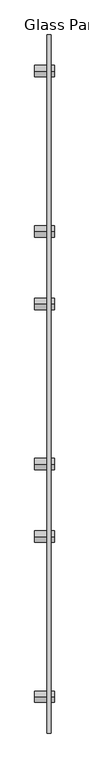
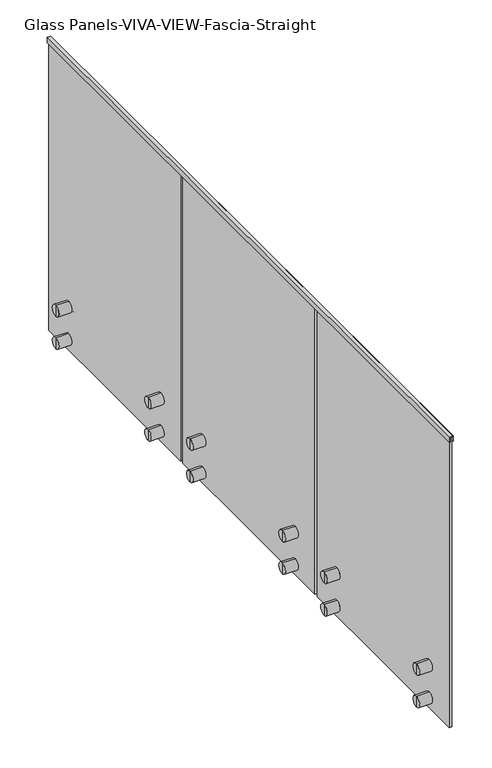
"""IFC4 building model written with IfcOpenShell, lengths in millimetres: railing geometry, Glass Panels-VIVA-VIEW-Fascia-Straight."""

from ifc_helpers import new_model, si_unit, frame, origin, place, context, project, spatial, polyline, circle_curve, outline, extrude, source, transform, mapped, element, save
from ifc_brep_helpers import plane_surface, cylinder_surface, advanced_brep


def glass_panels_viva_view_fascia_straight_b781b54e(model_context):
    return source(origin(), model_context, "Body", "SolidModel", [
        extrude(outline(polyline([(1092.2, 20234.1346444), (1066.8, 20234.1346444), (1066.8, 20235.7221444), (1090.6125, 20235.7221444), (1090.6125, 20248.4221444), (1066.8, 20248.4221444), (1066.8, 20250.0096444), (1092.2, 20250.0096444), (1092.2, 20234.1346444)])), frame((0.0, -6665.9911701, 0.0), z_axis=(0.0, 1.0, 0.0), x_axis=(0.0, 0.0, 1.0)), (0.0, 0.0, 1.0), 3098.8),
        advanced_brep(
        [(20265.8843505, -4438.8747902, -254.0), (20265.8843505, -4438.8747902, -203.2), (20265.8843505, -4438.8747902, -228.6), (20248.4218505, -4438.8747902, -254.0), (20248.4218505, -4438.8747902, -203.2), (20248.4218505, -4438.8747902, -234.315), (20248.4218505, -4438.8747902, -222.885), (20235.7218505, -4438.8747902, -234.315), (20235.7218505, -4438.8747902, -222.885), (20235.7218505, -4438.8747902, -254.0), (20235.7218505, -4438.8747902, -203.2), (20178.5719975, -4438.8747902, -254.0), (20178.5719975, -4438.8747902, -203.2), (20178.5719975, -4438.8747902, -228.6)],
        [
            (0, 1, circle_curve(frame((20265.8843505, -4438.8747902, -228.6), z_axis=(1.0, 0.0, 0.0), x_axis=(0.0, 0.0, 1.0)), 25.4)),
            (1, 2),
            (2, 0),
            (1, 0, circle_curve(frame((20265.8843505, -4438.8747902, -228.6), z_axis=(1.0, 0.0, 0.0), x_axis=(0.0, 0.0, 1.0)), 25.4)),
            (3, 4, circle_curve(frame((20248.4218505, -4438.8747902, -228.6), z_axis=(1.0, 0.0, 0.0), x_axis=(0.0, 0.0, 1.0)), 25.4)),
            (4, 1),
            (0, 3),
            (4, 3, circle_curve(frame((20248.4218505, -4438.8747902, -228.6), z_axis=(1.0, 0.0, 0.0), x_axis=(0.0, 0.0, 1.0)), 25.4)),
            (5, 6, circle_curve(frame((20248.4218505, -4438.8747902, -228.6), z_axis=(1.0, 0.0, 0.0), x_axis=(0.0, 0.0, 1.0)), 5.715)),
            (6, 4),
            (3, 5),
            (6, 5, circle_curve(frame((20248.4218505, -4438.8747902, -228.6), z_axis=(1.0, 0.0, 0.0), x_axis=(0.0, 0.0, 1.0)), 5.715)),
            (7, 8, circle_curve(frame((20235.7218505, -4438.8747902, -228.6), z_axis=(1.0, 0.0, 0.0), x_axis=(0.0, 0.0, 1.0)), 5.715)),
            (8, 6),
            (5, 7),
            (8, 7, circle_curve(frame((20235.7218505, -4438.8747902, -228.6), z_axis=(1.0, 0.0, 0.0), x_axis=(0.0, 0.0, 1.0)), 5.715)),
            (9, 10, circle_curve(frame((20235.7218505, -4438.8747902, -228.6), z_axis=(1.0, 0.0, 0.0), x_axis=(0.0, 0.0, 1.0)), 25.4)),
            (10, 8),
            (7, 9),
            (10, 9, circle_curve(frame((20235.7218505, -4438.8747902, -228.6), z_axis=(1.0, 0.0, 0.0), x_axis=(0.0, 0.0, 1.0)), 25.4)),
            (11, 12, circle_curve(frame((20178.5719975, -4438.8747902, -228.6), z_axis=(1.0, 0.0, 0.0), x_axis=(0.0, 0.0, 1.0)), 25.4)),
            (12, 10),
            (9, 11),
            (12, 11, circle_curve(frame((20178.5719975, -4438.8747902, -228.6), z_axis=(1.0, 0.0, 0.0), x_axis=(0.0, 0.0, 1.0)), 25.4)),
            (13, 12),
            (11, 13),
        ],
        [
            plane_surface(frame((20265.8843505, -4438.8747902, -228.6), z_axis=(1.0, 0.0, 0.0), x_axis=(0.0, 0.0, 1.0))),
            cylinder_surface(frame((20334.1469975, -4438.8747902, -228.6), z_axis=(-1.0, 0.0, 0.0), x_axis=(0.0, 0.0, 1.0)), 25.4),
            plane_surface(frame((20248.4218505, -4438.8747902, -228.6), z_axis=(-1.0, 0.0, 0.0), x_axis=(0.0, 0.0, 1.0))),
            cylinder_surface(frame((20334.1469975, -4438.8747902, -228.6), z_axis=(-1.0, 0.0, 0.0), x_axis=(0.0, 0.0, 1.0)), 5.715),
            plane_surface(frame((20235.7218505, -4438.8747902, -228.6), z_axis=(1.0, 0.0, 0.0), x_axis=(0.0, 0.0, 1.0))),
            plane_surface(frame((20178.5719975, -4438.8747902, -228.6), z_axis=(-1.0, 0.0, 0.0), x_axis=(0.0, 0.0, 1.0))),
        ],
        [
            (0, [[1, 2, 3]]),
            (0, [[4, -3, -2]]),
            (1, [[5, 6, -1, 7]]),
            (1, [[8, -7, -4, -6]]),
            (2, [[9, 10, -5, 11]]),
            (2, [[12, -11, -8, -10]]),
            (3, [[13, 14, -9, 15]]),
            (3, [[16, -15, -12, -14]]),
            (4, [[17, 18, -13, 19]]),
            (4, [[20, -19, -16, -18]]),
            (1, [[21, 22, -17, 23]]),
            (1, [[24, -23, -20, -22]]),
            (5, [[25, -21, 26]]),
            (5, [[-26, -24, -25]]),
        ],
    ),
        advanced_brep(
        [(20248.4218505, -4438.8747902, -81.915), (20248.4218505, -4438.8747902, -70.485), (20248.4218505, -4438.8747902, -50.8), (20248.4218505, -4438.8747902, -101.6), (20235.7218505, -4438.8747902, -81.915), (20235.7218505, -4438.8747902, -70.485), (20235.7218505, -4438.8747902, -101.6), (20235.7218505, -4438.8747902, -50.8), (20178.5719975, -4438.8747902, -101.6), (20178.5719975, -4438.8747902, -50.8), (20178.5719975, -4438.8747902, -76.2), (20265.8843505, -4438.8747902, -101.6), (20265.8843505, -4438.8747902, -50.8), (20265.8843505, -4438.8747902, -76.2)],
        [
            (0, 1, circle_curve(frame((20248.4218505, -4438.8747902, -76.2), z_axis=(1.0, 0.0, 0.0), x_axis=(0.0, 0.0, 1.0)), 5.715)),
            (1, 2),
            (2, 3, circle_curve(frame((20248.4218505, -4438.8747902, -76.2), z_axis=(-1.0, 0.0, 0.0), x_axis=(0.0, 0.0, 1.0)), 25.4)),
            (3, 0),
            (1, 0, circle_curve(frame((20248.4218505, -4438.8747902, -76.2), z_axis=(1.0, 0.0, 0.0), x_axis=(0.0, 0.0, 1.0)), 5.715)),
            (3, 2, circle_curve(frame((20248.4218505, -4438.8747902, -76.2), z_axis=(-1.0, 0.0, 0.0), x_axis=(0.0, 0.0, 1.0)), 25.4)),
            (4, 5, circle_curve(frame((20235.7218505, -4438.8747902, -76.2), z_axis=(1.0, 0.0, 0.0), x_axis=(0.0, 0.0, 1.0)), 5.715)),
            (5, 1),
            (0, 4),
            (5, 4, circle_curve(frame((20235.7218505, -4438.8747902, -76.2), z_axis=(1.0, 0.0, 0.0), x_axis=(0.0, 0.0, 1.0)), 5.715)),
            (6, 7, circle_curve(frame((20235.7218505, -4438.8747902, -76.2), z_axis=(1.0, 0.0, 0.0), x_axis=(0.0, 0.0, 1.0)), 25.4)),
            (7, 5),
            (4, 6),
            (7, 6, circle_curve(frame((20235.7218505, -4438.8747902, -76.2), z_axis=(1.0, 0.0, 0.0), x_axis=(0.0, 0.0, 1.0)), 25.4)),
            (8, 9, circle_curve(frame((20178.5719975, -4438.8747902, -76.2), z_axis=(1.0, 0.0, 0.0), x_axis=(0.0, 0.0, 1.0)), 25.4)),
            (9, 7),
            (6, 8),
            (9, 8, circle_curve(frame((20178.5719975, -4438.8747902, -76.2), z_axis=(1.0, 0.0, 0.0), x_axis=(0.0, 0.0, 1.0)), 25.4)),
            (10, 9),
            (8, 10),
            (11, 12, circle_curve(frame((20265.8843505, -4438.8747902, -76.2), z_axis=(1.0, 0.0, 0.0), x_axis=(0.0, 0.0, 1.0)), 25.4)),
            (12, 13),
            (13, 11),
            (12, 11, circle_curve(frame((20265.8843505, -4438.8747902, -76.2), z_axis=(1.0, 0.0, 0.0), x_axis=(0.0, 0.0, 1.0)), 25.4)),
            (2, 12),
            (11, 3),
        ],
        [
            plane_surface(frame((20248.4218505, -4438.8747902, -76.2), z_axis=(-1.0, 0.0, 0.0), x_axis=(0.0, 0.0, 1.0))),
            cylinder_surface(frame((20334.1469975, -4438.8747902, -76.2), z_axis=(-1.0, 0.0, 0.0), x_axis=(0.0, 0.0, 1.0)), 5.715),
            plane_surface(frame((20235.7218505, -4438.8747902, -76.2), z_axis=(1.0, 0.0, 0.0), x_axis=(0.0, 0.0, 1.0))),
            cylinder_surface(frame((20334.1469975, -4438.8747902, -76.2), z_axis=(-1.0, 0.0, 0.0), x_axis=(0.0, 0.0, 1.0)), 25.4),
            plane_surface(frame((20178.5719975, -4438.8747902, -76.2), z_axis=(-1.0, 0.0, 0.0), x_axis=(0.0, 0.0, 1.0))),
            plane_surface(frame((20265.8843505, -4438.8747902, -76.2), z_axis=(1.0, 0.0, 0.0), x_axis=(0.0, 0.0, 1.0))),
        ],
        [
            (0, [[1, 2, 3, 4]]),
            (0, [[5, -4, 6, -2]]),
            (1, [[7, 8, -1, 9]]),
            (1, [[10, -9, -5, -8]]),
            (2, [[11, 12, -7, 13]]),
            (2, [[14, -13, -10, -12]]),
            (3, [[15, 16, -11, 17]]),
            (3, [[18, -17, -14, -16]]),
            (4, [[19, -15, 20]]),
            (4, [[-20, -18, -19]]),
            (5, [[21, 22, 23]]),
            (5, [[24, -23, -22]]),
            (3, [[-3, 25, -21, 26]]),
            (3, [[-6, -26, -24, -25]]),
        ],
    ),
        advanced_brep(
        [(20265.8843505, -3727.6747902, -254.0), (20265.8843505, -3727.6747902, -203.2), (20265.8843505, -3727.6747902, -228.6), (20248.4218505, -3727.6747902, -254.0), (20248.4218505, -3727.6747902, -203.2), (20248.4218505, -3727.6747902, -234.315), (20248.4218505, -3727.6747902, -222.885), (20235.7218505, -3727.6747902, -234.315), (20235.7218505, -3727.6747902, -222.885), (20235.7218505, -3727.6747902, -254.0), (20235.7218505, -3727.6747902, -203.2), (20178.5719975, -3727.6747902, -254.0), (20178.5719975, -3727.6747902, -203.2), (20178.5719975, -3727.6747902, -228.6)],
        [
            (0, 1, circle_curve(frame((20265.8843505, -3727.6747902, -228.6), z_axis=(1.0, 0.0, 0.0), x_axis=(0.0, 0.0, 1.0)), 25.4)),
            (1, 2),
            (2, 0),
            (1, 0, circle_curve(frame((20265.8843505, -3727.6747902, -228.6), z_axis=(1.0, 0.0, 0.0), x_axis=(0.0, 0.0, 1.0)), 25.4)),
            (3, 4, circle_curve(frame((20248.4218505, -3727.6747902, -228.6), z_axis=(1.0, 0.0, 0.0), x_axis=(0.0, 0.0, 1.0)), 25.4)),
            (4, 1),
            (0, 3),
            (4, 3, circle_curve(frame((20248.4218505, -3727.6747902, -228.6), z_axis=(1.0, 0.0, 0.0), x_axis=(0.0, 0.0, 1.0)), 25.4)),
            (5, 6, circle_curve(frame((20248.4218505, -3727.6747902, -228.6), z_axis=(1.0, 0.0, 0.0), x_axis=(0.0, 0.0, 1.0)), 5.715)),
            (6, 4),
            (3, 5),
            (6, 5, circle_curve(frame((20248.4218505, -3727.6747902, -228.6), z_axis=(1.0, 0.0, 0.0), x_axis=(0.0, 0.0, 1.0)), 5.715)),
            (7, 8, circle_curve(frame((20235.7218505, -3727.6747902, -228.6), z_axis=(1.0, 0.0, 0.0), x_axis=(0.0, 0.0, 1.0)), 5.715)),
            (8, 6),
            (5, 7),
            (8, 7, circle_curve(frame((20235.7218505, -3727.6747902, -228.6), z_axis=(1.0, 0.0, 0.0), x_axis=(0.0, 0.0, 1.0)), 5.715)),
            (9, 10, circle_curve(frame((20235.7218505, -3727.6747902, -228.6), z_axis=(1.0, 0.0, 0.0), x_axis=(0.0, 0.0, 1.0)), 25.4)),
            (10, 8),
            (7, 9),
            (10, 9, circle_curve(frame((20235.7218505, -3727.6747902, -228.6), z_axis=(1.0, 0.0, 0.0), x_axis=(0.0, 0.0, 1.0)), 25.4)),
            (11, 12, circle_curve(frame((20178.5719975, -3727.6747902, -228.6), z_axis=(1.0, 0.0, 0.0), x_axis=(0.0, 0.0, 1.0)), 25.4)),
            (12, 10),
            (9, 11),
            (12, 11, circle_curve(frame((20178.5719975, -3727.6747902, -228.6), z_axis=(1.0, 0.0, 0.0), x_axis=(0.0, 0.0, 1.0)), 25.4)),
            (13, 12),
            (11, 13),
        ],
        [
            plane_surface(frame((20265.8843505, -3727.6747902, -228.6), z_axis=(1.0, 0.0, 0.0), x_axis=(0.0, 0.0, 1.0))),
            cylinder_surface(frame((20334.1469975, -3727.6747902, -228.6), z_axis=(-1.0, 0.0, 0.0), x_axis=(0.0, 0.0, 1.0)), 25.4),
            plane_surface(frame((20248.4218505, -3727.6747902, -228.6), z_axis=(-1.0, 0.0, 0.0), x_axis=(0.0, 0.0, 1.0))),
            cylinder_surface(frame((20334.1469975, -3727.6747902, -228.6), z_axis=(-1.0, 0.0, 0.0), x_axis=(0.0, 0.0, 1.0)), 5.715),
            plane_surface(frame((20235.7218505, -3727.6747902, -228.6), z_axis=(1.0, 0.0, 0.0), x_axis=(0.0, 0.0, 1.0))),
            plane_surface(frame((20178.5719975, -3727.6747902, -228.6), z_axis=(-1.0, 0.0, 0.0), x_axis=(0.0, 0.0, 1.0))),
        ],
        [
            (0, [[1, 2, 3]]),
            (0, [[4, -3, -2]]),
            (1, [[5, 6, -1, 7]]),
            (1, [[8, -7, -4, -6]]),
            (2, [[9, 10, -5, 11]]),
            (2, [[12, -11, -8, -10]]),
            (3, [[13, 14, -9, 15]]),
            (3, [[16, -15, -12, -14]]),
            (4, [[17, 18, -13, 19]]),
            (4, [[20, -19, -16, -18]]),
            (1, [[21, 22, -17, 23]]),
            (1, [[24, -23, -20, -22]]),
            (5, [[25, -21, 26]]),
            (5, [[-26, -24, -25]]),
        ],
    ),
        advanced_brep(
        [(20248.4218505, -3727.6747902, -81.915), (20248.4218505, -3727.6747902, -70.485), (20248.4218505, -3727.6747902, -50.8), (20248.4218505, -3727.6747902, -101.6), (20235.7218505, -3727.6747902, -81.915), (20235.7218505, -3727.6747902, -70.485), (20235.7218505, -3727.6747902, -101.6), (20235.7218505, -3727.6747902, -50.8), (20178.5719975, -3727.6747902, -101.6), (20178.5719975, -3727.6747902, -50.8), (20178.5719975, -3727.6747902, -76.2), (20265.8843505, -3727.6747902, -101.6), (20265.8843505, -3727.6747902, -50.8), (20265.8843505, -3727.6747902, -76.2)],
        [
            (0, 1, circle_curve(frame((20248.4218505, -3727.6747902, -76.2), z_axis=(1.0, 0.0, 0.0), x_axis=(0.0, 0.0, 1.0)), 5.715)),
            (1, 2),
            (2, 3, circle_curve(frame((20248.4218505, -3727.6747902, -76.2), z_axis=(-1.0, 0.0, 0.0), x_axis=(0.0, 0.0, 1.0)), 25.4)),
            (3, 0),
            (1, 0, circle_curve(frame((20248.4218505, -3727.6747902, -76.2), z_axis=(1.0, 0.0, 0.0), x_axis=(0.0, 0.0, 1.0)), 5.715)),
            (3, 2, circle_curve(frame((20248.4218505, -3727.6747902, -76.2), z_axis=(-1.0, 0.0, 0.0), x_axis=(0.0, 0.0, 1.0)), 25.4)),
            (4, 5, circle_curve(frame((20235.7218505, -3727.6747902, -76.2), z_axis=(1.0, 0.0, 0.0), x_axis=(0.0, 0.0, 1.0)), 5.715)),
            (5, 1),
            (0, 4),
            (5, 4, circle_curve(frame((20235.7218505, -3727.6747902, -76.2), z_axis=(1.0, 0.0, 0.0), x_axis=(0.0, 0.0, 1.0)), 5.715)),
            (6, 7, circle_curve(frame((20235.7218505, -3727.6747902, -76.2), z_axis=(1.0, 0.0, 0.0), x_axis=(0.0, 0.0, 1.0)), 25.4)),
            (7, 5),
            (4, 6),
            (7, 6, circle_curve(frame((20235.7218505, -3727.6747902, -76.2), z_axis=(1.0, 0.0, 0.0), x_axis=(0.0, 0.0, 1.0)), 25.4)),
            (8, 9, circle_curve(frame((20178.5719975, -3727.6747902, -76.2), z_axis=(1.0, 0.0, 0.0), x_axis=(0.0, 0.0, 1.0)), 25.4)),
            (9, 7),
            (6, 8),
            (9, 8, circle_curve(frame((20178.5719975, -3727.6747902, -76.2), z_axis=(1.0, 0.0, 0.0), x_axis=(0.0, 0.0, 1.0)), 25.4)),
            (10, 9),
            (8, 10),
            (11, 12, circle_curve(frame((20265.8843505, -3727.6747902, -76.2), z_axis=(1.0, 0.0, 0.0), x_axis=(0.0, 0.0, 1.0)), 25.4)),
            (12, 13),
            (13, 11),
            (12, 11, circle_curve(frame((20265.8843505, -3727.6747902, -76.2), z_axis=(1.0, 0.0, 0.0), x_axis=(0.0, 0.0, 1.0)), 25.4)),
            (2, 12),
            (11, 3),
        ],
        [
            plane_surface(frame((20248.4218505, -3727.6747902, -76.2), z_axis=(-1.0, 0.0, 0.0), x_axis=(0.0, 0.0, 1.0))),
            cylinder_surface(frame((20334.1469975, -3727.6747902, -76.2), z_axis=(-1.0, 0.0, 0.0), x_axis=(0.0, 0.0, 1.0)), 5.715),
            plane_surface(frame((20235.7218505, -3727.6747902, -76.2), z_axis=(1.0, 0.0, 0.0), x_axis=(0.0, 0.0, 1.0))),
            cylinder_surface(frame((20334.1469975, -3727.6747902, -76.2), z_axis=(-1.0, 0.0, 0.0), x_axis=(0.0, 0.0, 1.0)), 25.4),
            plane_surface(frame((20178.5719975, -3727.6747902, -76.2), z_axis=(-1.0, 0.0, 0.0), x_axis=(0.0, 0.0, 1.0))),
            plane_surface(frame((20265.8843505, -3727.6747902, -76.2), z_axis=(1.0, 0.0, 0.0), x_axis=(0.0, 0.0, 1.0))),
        ],
        [
            (0, [[1, 2, 3, 4]]),
            (0, [[5, -4, 6, -2]]),
            (1, [[7, 8, -1, 9]]),
            (1, [[10, -9, -5, -8]]),
            (2, [[11, 12, -7, 13]]),
            (2, [[14, -13, -10, -12]]),
            (3, [[15, 16, -11, 17]]),
            (3, [[18, -17, -14, -16]]),
            (4, [[19, -15, 20]]),
            (4, [[-20, -18, -19]]),
            (5, [[21, 22, 23]]),
            (5, [[24, -23, -22]]),
            (3, [[-3, 25, -21, 26]]),
            (3, [[-6, -26, -24, -25]]),
        ],
    ),
        extrude(outline(polyline([(20235.7221444, -4591.2747902), (20235.7221444, -3575.2747902), (20248.4221444, -3575.2747902), (20248.4221444, -4591.2747902), (20235.7221444, -4591.2747902)])), frame((0.0, 0.0, -279.4), z_axis=(0.0, 0.0, 1.0), x_axis=(1.0, 0.0, 0.0)), (0.0, 0.0, 1.0), 1370.0125),
        advanced_brep(
        [(20265.8843505, -5471.8081235, -254.0), (20265.8843505, -5471.8081235, -203.2), (20265.8843505, -5471.8081235, -228.6), (20248.4218505, -5471.8081235, -254.0), (20248.4218505, -5471.8081235, -203.2), (20248.4218505, -5471.8081235, -234.315), (20248.4218505, -5471.8081235, -222.885), (20235.7218505, -5471.8081235, -234.315), (20235.7218505, -5471.8081235, -222.885), (20235.7218505, -5471.8081235, -254.0), (20235.7218505, -5471.8081235, -203.2), (20178.5719975, -5471.8081235, -254.0), (20178.5719975, -5471.8081235, -203.2), (20178.5719975, -5471.8081235, -228.6)],
        [
            (0, 1, circle_curve(frame((20265.8843505, -5471.8081235, -228.6), z_axis=(1.0, 0.0, 0.0), x_axis=(0.0, 0.0, 1.0)), 25.4)),
            (1, 2),
            (2, 0),
            (1, 0, circle_curve(frame((20265.8843505, -5471.8081235, -228.6), z_axis=(1.0, 0.0, 0.0), x_axis=(0.0, 0.0, 1.0)), 25.4)),
            (3, 4, circle_curve(frame((20248.4218505, -5471.8081235, -228.6), z_axis=(1.0, 0.0, 0.0), x_axis=(0.0, 0.0, 1.0)), 25.4)),
            (4, 1),
            (0, 3),
            (4, 3, circle_curve(frame((20248.4218505, -5471.8081235, -228.6), z_axis=(1.0, 0.0, 0.0), x_axis=(0.0, 0.0, 1.0)), 25.4)),
            (5, 6, circle_curve(frame((20248.4218505, -5471.8081235, -228.6), z_axis=(1.0, 0.0, 0.0), x_axis=(0.0, 0.0, 1.0)), 5.715)),
            (6, 4),
            (3, 5),
            (6, 5, circle_curve(frame((20248.4218505, -5471.8081235, -228.6), z_axis=(1.0, 0.0, 0.0), x_axis=(0.0, 0.0, 1.0)), 5.715)),
            (7, 8, circle_curve(frame((20235.7218505, -5471.8081235, -228.6), z_axis=(1.0, 0.0, 0.0), x_axis=(0.0, 0.0, 1.0)), 5.715)),
            (8, 6),
            (5, 7),
            (8, 7, circle_curve(frame((20235.7218505, -5471.8081235, -228.6), z_axis=(1.0, 0.0, 0.0), x_axis=(0.0, 0.0, 1.0)), 5.715)),
            (9, 10, circle_curve(frame((20235.7218505, -5471.8081235, -228.6), z_axis=(1.0, 0.0, 0.0), x_axis=(0.0, 0.0, 1.0)), 25.4)),
            (10, 8),
            (7, 9),
            (10, 9, circle_curve(frame((20235.7218505, -5471.8081235, -228.6), z_axis=(1.0, 0.0, 0.0), x_axis=(0.0, 0.0, 1.0)), 25.4)),
            (11, 12, circle_curve(frame((20178.5719975, -5471.8081235, -228.6), z_axis=(1.0, 0.0, 0.0), x_axis=(0.0, 0.0, 1.0)), 25.4)),
            (12, 10),
            (9, 11),
            (12, 11, circle_curve(frame((20178.5719975, -5471.8081235, -228.6), z_axis=(1.0, 0.0, 0.0), x_axis=(0.0, 0.0, 1.0)), 25.4)),
            (13, 12),
            (11, 13),
        ],
        [
            plane_surface(frame((20265.8843505, -5471.8081235, -228.6), z_axis=(1.0, 0.0, 0.0), x_axis=(0.0, 0.0, 1.0))),
            cylinder_surface(frame((20334.1469975, -5471.8081235, -228.6), z_axis=(-1.0, 0.0, 0.0), x_axis=(0.0, 0.0, 1.0)), 25.4),
            plane_surface(frame((20248.4218505, -5471.8081235, -228.6), z_axis=(-1.0, 0.0, 0.0), x_axis=(0.0, 0.0, 1.0))),
            cylinder_surface(frame((20334.1469975, -5471.8081235, -228.6), z_axis=(-1.0, 0.0, 0.0), x_axis=(0.0, 0.0, 1.0)), 5.715),
            plane_surface(frame((20235.7218505, -5471.8081235, -228.6), z_axis=(1.0, 0.0, 0.0), x_axis=(0.0, 0.0, 1.0))),
            plane_surface(frame((20178.5719975, -5471.8081235, -228.6), z_axis=(-1.0, 0.0, 0.0), x_axis=(0.0, 0.0, 1.0))),
        ],
        [
            (0, [[1, 2, 3]]),
            (0, [[4, -3, -2]]),
            (1, [[5, 6, -1, 7]]),
            (1, [[8, -7, -4, -6]]),
            (2, [[9, 10, -5, 11]]),
            (2, [[12, -11, -8, -10]]),
            (3, [[13, 14, -9, 15]]),
            (3, [[16, -15, -12, -14]]),
            (4, [[17, 18, -13, 19]]),
            (4, [[20, -19, -16, -18]]),
            (1, [[21, 22, -17, 23]]),
            (1, [[24, -23, -20, -22]]),
            (5, [[25, -21, 26]]),
            (5, [[-26, -24, -25]]),
        ],
    ),
        advanced_brep(
        [(20248.4218505, -5471.8081235, -81.915), (20248.4218505, -5471.8081235, -70.485), (20248.4218505, -5471.8081235, -50.8), (20248.4218505, -5471.8081235, -101.6), (20235.7218505, -5471.8081235, -81.915), (20235.7218505, -5471.8081235, -70.485), (20235.7218505, -5471.8081235, -101.6), (20235.7218505, -5471.8081235, -50.8), (20178.5719975, -5471.8081235, -101.6), (20178.5719975, -5471.8081235, -50.8), (20178.5719975, -5471.8081235, -76.2), (20265.8843505, -5471.8081235, -101.6), (20265.8843505, -5471.8081235, -50.8), (20265.8843505, -5471.8081235, -76.2)],
        [
            (0, 1, circle_curve(frame((20248.4218505, -5471.8081235, -76.2), z_axis=(1.0, 0.0, 0.0), x_axis=(0.0, 0.0, 1.0)), 5.715)),
            (1, 2),
            (2, 3, circle_curve(frame((20248.4218505, -5471.8081235, -76.2), z_axis=(-1.0, 0.0, 0.0), x_axis=(0.0, 0.0, 1.0)), 25.4)),
            (3, 0),
            (1, 0, circle_curve(frame((20248.4218505, -5471.8081235, -76.2), z_axis=(1.0, 0.0, 0.0), x_axis=(0.0, 0.0, 1.0)), 5.715)),
            (3, 2, circle_curve(frame((20248.4218505, -5471.8081235, -76.2), z_axis=(-1.0, 0.0, 0.0), x_axis=(0.0, 0.0, 1.0)), 25.4)),
            (4, 5, circle_curve(frame((20235.7218505, -5471.8081235, -76.2), z_axis=(1.0, 0.0, 0.0), x_axis=(0.0, 0.0, 1.0)), 5.715)),
            (5, 1),
            (0, 4),
            (5, 4, circle_curve(frame((20235.7218505, -5471.8081235, -76.2), z_axis=(1.0, 0.0, 0.0), x_axis=(0.0, 0.0, 1.0)), 5.715)),
            (6, 7, circle_curve(frame((20235.7218505, -5471.8081235, -76.2), z_axis=(1.0, 0.0, 0.0), x_axis=(0.0, 0.0, 1.0)), 25.4)),
            (7, 5),
            (4, 6),
            (7, 6, circle_curve(frame((20235.7218505, -5471.8081235, -76.2), z_axis=(1.0, 0.0, 0.0), x_axis=(0.0, 0.0, 1.0)), 25.4)),
            (8, 9, circle_curve(frame((20178.5719975, -5471.8081235, -76.2), z_axis=(1.0, 0.0, 0.0), x_axis=(0.0, 0.0, 1.0)), 25.4)),
            (9, 7),
            (6, 8),
            (9, 8, circle_curve(frame((20178.5719975, -5471.8081235, -76.2), z_axis=(1.0, 0.0, 0.0), x_axis=(0.0, 0.0, 1.0)), 25.4)),
            (10, 9),
            (8, 10),
            (11, 12, circle_curve(frame((20265.8843505, -5471.8081235, -76.2), z_axis=(1.0, 0.0, 0.0), x_axis=(0.0, 0.0, 1.0)), 25.4)),
            (12, 13),
            (13, 11),
            (12, 11, circle_curve(frame((20265.8843505, -5471.8081235, -76.2), z_axis=(1.0, 0.0, 0.0), x_axis=(0.0, 0.0, 1.0)), 25.4)),
            (2, 12),
            (11, 3),
        ],
        [
            plane_surface(frame((20248.4218505, -5471.8081235, -76.2), z_axis=(-1.0, 0.0, 0.0), x_axis=(0.0, 0.0, 1.0))),
            cylinder_surface(frame((20334.1469975, -5471.8081235, -76.2), z_axis=(-1.0, 0.0, 0.0), x_axis=(0.0, 0.0, 1.0)), 5.715),
            plane_surface(frame((20235.7218505, -5471.8081235, -76.2), z_axis=(1.0, 0.0, 0.0), x_axis=(0.0, 0.0, 1.0))),
            cylinder_surface(frame((20334.1469975, -5471.8081235, -76.2), z_axis=(-1.0, 0.0, 0.0), x_axis=(0.0, 0.0, 1.0)), 25.4),
            plane_surface(frame((20178.5719975, -5471.8081235, -76.2), z_axis=(-1.0, 0.0, 0.0), x_axis=(0.0, 0.0, 1.0))),
            plane_surface(frame((20265.8843505, -5471.8081235, -76.2), z_axis=(1.0, 0.0, 0.0), x_axis=(0.0, 0.0, 1.0))),
        ],
        [
            (0, [[1, 2, 3, 4]]),
            (0, [[5, -4, 6, -2]]),
            (1, [[7, 8, -1, 9]]),
            (1, [[10, -9, -5, -8]]),
            (2, [[11, 12, -7, 13]]),
            (2, [[14, -13, -10, -12]]),
            (3, [[15, 16, -11, 17]]),
            (3, [[18, -17, -14, -16]]),
            (4, [[19, -15, 20]]),
            (4, [[-20, -18, -19]]),
            (5, [[21, 22, 23]]),
            (5, [[24, -23, -22]]),
            (3, [[-3, 25, -21, 26]]),
            (3, [[-6, -26, -24, -25]]),
        ],
    ),
        advanced_brep(
        [(20265.8843505, -4760.6081235, -254.0), (20265.8843505, -4760.6081235, -203.2), (20265.8843505, -4760.6081235, -228.6), (20248.4218505, -4760.6081235, -254.0), (20248.4218505, -4760.6081235, -203.2), (20248.4218505, -4760.6081235, -234.315), (20248.4218505, -4760.6081235, -222.885), (20235.7218505, -4760.6081235, -234.315), (20235.7218505, -4760.6081235, -222.885), (20235.7218505, -4760.6081235, -254.0), (20235.7218505, -4760.6081235, -203.2), (20178.5719975, -4760.6081235, -254.0), (20178.5719975, -4760.6081235, -203.2), (20178.5719975, -4760.6081235, -228.6)],
        [
            (0, 1, circle_curve(frame((20265.8843505, -4760.6081235, -228.6), z_axis=(1.0, 0.0, 0.0), x_axis=(0.0, 0.0, 1.0)), 25.4)),
            (1, 2),
            (2, 0),
            (1, 0, circle_curve(frame((20265.8843505, -4760.6081235, -228.6), z_axis=(1.0, 0.0, 0.0), x_axis=(0.0, 0.0, 1.0)), 25.4)),
            (3, 4, circle_curve(frame((20248.4218505, -4760.6081235, -228.6), z_axis=(1.0, 0.0, 0.0), x_axis=(0.0, 0.0, 1.0)), 25.4)),
            (4, 1),
            (0, 3),
            (4, 3, circle_curve(frame((20248.4218505, -4760.6081235, -228.6), z_axis=(1.0, 0.0, 0.0), x_axis=(0.0, 0.0, 1.0)), 25.4)),
            (5, 6, circle_curve(frame((20248.4218505, -4760.6081235, -228.6), z_axis=(1.0, 0.0, 0.0), x_axis=(0.0, 0.0, 1.0)), 5.715)),
            (6, 4),
            (3, 5),
            (6, 5, circle_curve(frame((20248.4218505, -4760.6081235, -228.6), z_axis=(1.0, 0.0, 0.0), x_axis=(0.0, 0.0, 1.0)), 5.715)),
            (7, 8, circle_curve(frame((20235.7218505, -4760.6081235, -228.6), z_axis=(1.0, 0.0, 0.0), x_axis=(0.0, 0.0, 1.0)), 5.715)),
            (8, 6),
            (5, 7),
            (8, 7, circle_curve(frame((20235.7218505, -4760.6081235, -228.6), z_axis=(1.0, 0.0, 0.0), x_axis=(0.0, 0.0, 1.0)), 5.715)),
            (9, 10, circle_curve(frame((20235.7218505, -4760.6081235, -228.6), z_axis=(1.0, 0.0, 0.0), x_axis=(0.0, 0.0, 1.0)), 25.4)),
            (10, 8),
            (7, 9),
            (10, 9, circle_curve(frame((20235.7218505, -4760.6081235, -228.6), z_axis=(1.0, 0.0, 0.0), x_axis=(0.0, 0.0, 1.0)), 25.4)),
            (11, 12, circle_curve(frame((20178.5719975, -4760.6081235, -228.6), z_axis=(1.0, 0.0, 0.0), x_axis=(0.0, 0.0, 1.0)), 25.4)),
            (12, 10),
            (9, 11),
            (12, 11, circle_curve(frame((20178.5719975, -4760.6081235, -228.6), z_axis=(1.0, 0.0, 0.0), x_axis=(0.0, 0.0, 1.0)), 25.4)),
            (13, 12),
            (11, 13),
        ],
        [
            plane_surface(frame((20265.8843505, -4760.6081235, -228.6), z_axis=(1.0, 0.0, 0.0), x_axis=(0.0, 0.0, 1.0))),
            cylinder_surface(frame((20334.1469975, -4760.6081235, -228.6), z_axis=(-1.0, 0.0, 0.0), x_axis=(0.0, 0.0, 1.0)), 25.4),
            plane_surface(frame((20248.4218505, -4760.6081235, -228.6), z_axis=(-1.0, 0.0, 0.0), x_axis=(0.0, 0.0, 1.0))),
            cylinder_surface(frame((20334.1469975, -4760.6081235, -228.6), z_axis=(-1.0, 0.0, 0.0), x_axis=(0.0, 0.0, 1.0)), 5.715),
            plane_surface(frame((20235.7218505, -4760.6081235, -228.6), z_axis=(1.0, 0.0, 0.0), x_axis=(0.0, 0.0, 1.0))),
            plane_surface(frame((20178.5719975, -4760.6081235, -228.6), z_axis=(-1.0, 0.0, 0.0), x_axis=(0.0, 0.0, 1.0))),
        ],
        [
            (0, [[1, 2, 3]]),
            (0, [[4, -3, -2]]),
            (1, [[5, 6, -1, 7]]),
            (1, [[8, -7, -4, -6]]),
            (2, [[9, 10, -5, 11]]),
            (2, [[12, -11, -8, -10]]),
            (3, [[13, 14, -9, 15]]),
            (3, [[16, -15, -12, -14]]),
            (4, [[17, 18, -13, 19]]),
            (4, [[20, -19, -16, -18]]),
            (1, [[21, 22, -17, 23]]),
            (1, [[24, -23, -20, -22]]),
            (5, [[25, -21, 26]]),
            (5, [[-26, -24, -25]]),
        ],
    ),
        advanced_brep(
        [(20248.4218505, -4760.6081235, -81.915), (20248.4218505, -4760.6081235, -70.485), (20248.4218505, -4760.6081235, -50.8), (20248.4218505, -4760.6081235, -101.6), (20235.7218505, -4760.6081235, -81.915), (20235.7218505, -4760.6081235, -70.485), (20235.7218505, -4760.6081235, -101.6), (20235.7218505, -4760.6081235, -50.8), (20178.5719975, -4760.6081235, -101.6), (20178.5719975, -4760.6081235, -50.8), (20178.5719975, -4760.6081235, -76.2), (20265.8843505, -4760.6081235, -101.6), (20265.8843505, -4760.6081235, -50.8), (20265.8843505, -4760.6081235, -76.2)],
        [
            (0, 1, circle_curve(frame((20248.4218505, -4760.6081235, -76.2), z_axis=(1.0, 0.0, 0.0), x_axis=(0.0, 0.0, 1.0)), 5.715)),
            (1, 2),
            (2, 3, circle_curve(frame((20248.4218505, -4760.6081235, -76.2), z_axis=(-1.0, 0.0, 0.0), x_axis=(0.0, 0.0, 1.0)), 25.4)),
            (3, 0),
            (1, 0, circle_curve(frame((20248.4218505, -4760.6081235, -76.2), z_axis=(1.0, 0.0, 0.0), x_axis=(0.0, 0.0, 1.0)), 5.715)),
            (3, 2, circle_curve(frame((20248.4218505, -4760.6081235, -76.2), z_axis=(-1.0, 0.0, 0.0), x_axis=(0.0, 0.0, 1.0)), 25.4)),
            (4, 5, circle_curve(frame((20235.7218505, -4760.6081235, -76.2), z_axis=(1.0, 0.0, 0.0), x_axis=(0.0, 0.0, 1.0)), 5.715)),
            (5, 1),
            (0, 4),
            (5, 4, circle_curve(frame((20235.7218505, -4760.6081235, -76.2), z_axis=(1.0, 0.0, 0.0), x_axis=(0.0, 0.0, 1.0)), 5.715)),
            (6, 7, circle_curve(frame((20235.7218505, -4760.6081235, -76.2), z_axis=(1.0, 0.0, 0.0), x_axis=(0.0, 0.0, 1.0)), 25.4)),
            (7, 5),
            (4, 6),
            (7, 6, circle_curve(frame((20235.7218505, -4760.6081235, -76.2), z_axis=(1.0, 0.0, 0.0), x_axis=(0.0, 0.0, 1.0)), 25.4)),
            (8, 9, circle_curve(frame((20178.5719975, -4760.6081235, -76.2), z_axis=(1.0, 0.0, 0.0), x_axis=(0.0, 0.0, 1.0)), 25.4)),
            (9, 7),
            (6, 8),
            (9, 8, circle_curve(frame((20178.5719975, -4760.6081235, -76.2), z_axis=(1.0, 0.0, 0.0), x_axis=(0.0, 0.0, 1.0)), 25.4)),
            (10, 9),
            (8, 10),
            (11, 12, circle_curve(frame((20265.8843505, -4760.6081235, -76.2), z_axis=(1.0, 0.0, 0.0), x_axis=(0.0, 0.0, 1.0)), 25.4)),
            (12, 13),
            (13, 11),
            (12, 11, circle_curve(frame((20265.8843505, -4760.6081235, -76.2), z_axis=(1.0, 0.0, 0.0), x_axis=(0.0, 0.0, 1.0)), 25.4)),
            (2, 12),
            (11, 3),
        ],
        [
            plane_surface(frame((20248.4218505, -4760.6081235, -76.2), z_axis=(-1.0, 0.0, 0.0), x_axis=(0.0, 0.0, 1.0))),
            cylinder_surface(frame((20334.1469975, -4760.6081235, -76.2), z_axis=(-1.0, 0.0, 0.0), x_axis=(0.0, 0.0, 1.0)), 5.715),
            plane_surface(frame((20235.7218505, -4760.6081235, -76.2), z_axis=(1.0, 0.0, 0.0), x_axis=(0.0, 0.0, 1.0))),
            cylinder_surface(frame((20334.1469975, -4760.6081235, -76.2), z_axis=(-1.0, 0.0, 0.0), x_axis=(0.0, 0.0, 1.0)), 25.4),
            plane_surface(frame((20178.5719975, -4760.6081235, -76.2), z_axis=(-1.0, 0.0, 0.0), x_axis=(0.0, 0.0, 1.0))),
            plane_surface(frame((20265.8843505, -4760.6081235, -76.2), z_axis=(1.0, 0.0, 0.0), x_axis=(0.0, 0.0, 1.0))),
        ],
        [
            (0, [[1, 2, 3, 4]]),
            (0, [[5, -4, 6, -2]]),
            (1, [[7, 8, -1, 9]]),
            (1, [[10, -9, -5, -8]]),
            (2, [[11, 12, -7, 13]]),
            (2, [[14, -13, -10, -12]]),
            (3, [[15, 16, -11, 17]]),
            (3, [[18, -17, -14, -16]]),
            (4, [[19, -15, 20]]),
            (4, [[-20, -18, -19]]),
            (5, [[21, 22, 23]]),
            (5, [[24, -23, -22]]),
            (3, [[-3, 25, -21, 26]]),
            (3, [[-6, -26, -24, -25]]),
        ],
    ),
        extrude(outline(polyline([(20235.7221444, -5624.2081235), (20235.7221444, -4608.2081235), (20248.4221444, -4608.2081235), (20248.4221444, -5624.2081235), (20235.7221444, -5624.2081235)])), frame((0.0, 0.0, -279.4), z_axis=(0.0, 0.0, 1.0), x_axis=(1.0, 0.0, 0.0)), (0.0, 0.0, 1.0), 1370.0125),
        advanced_brep(
        [(20265.8843505, -6504.7414569, -254.0), (20265.8843505, -6504.7414569, -203.2), (20265.8843505, -6504.7414569, -228.6), (20248.4218505, -6504.7414569, -254.0), (20248.4218505, -6504.7414569, -203.2), (20248.4218505, -6504.7414569, -234.315), (20248.4218505, -6504.7414569, -222.885), (20235.7218505, -6504.7414569, -234.315), (20235.7218505, -6504.7414569, -222.885), (20235.7218505, -6504.7414569, -254.0), (20235.7218505, -6504.7414569, -203.2), (20178.5719975, -6504.7414569, -254.0), (20178.5719975, -6504.7414569, -203.2), (20178.5719975, -6504.7414569, -228.6)],
        [
            (0, 1, circle_curve(frame((20265.8843505, -6504.7414569, -228.6), z_axis=(1.0, 0.0, 0.0), x_axis=(0.0, 0.0, 1.0)), 25.4)),
            (1, 2),
            (2, 0),
            (1, 0, circle_curve(frame((20265.8843505, -6504.7414569, -228.6), z_axis=(1.0, 0.0, 0.0), x_axis=(0.0, 0.0, 1.0)), 25.4)),
            (3, 4, circle_curve(frame((20248.4218505, -6504.7414569, -228.6), z_axis=(1.0, 0.0, 0.0), x_axis=(0.0, 0.0, 1.0)), 25.4)),
            (4, 1),
            (0, 3),
            (4, 3, circle_curve(frame((20248.4218505, -6504.7414569, -228.6), z_axis=(1.0, 0.0, 0.0), x_axis=(0.0, 0.0, 1.0)), 25.4)),
            (5, 6, circle_curve(frame((20248.4218505, -6504.7414569, -228.6), z_axis=(1.0, 0.0, 0.0), x_axis=(0.0, 0.0, 1.0)), 5.715)),
            (6, 4),
            (3, 5),
            (6, 5, circle_curve(frame((20248.4218505, -6504.7414569, -228.6), z_axis=(1.0, 0.0, 0.0), x_axis=(0.0, 0.0, 1.0)), 5.715)),
            (7, 8, circle_curve(frame((20235.7218505, -6504.7414569, -228.6), z_axis=(1.0, 0.0, 0.0), x_axis=(0.0, 0.0, 1.0)), 5.715)),
            (8, 6),
            (5, 7),
            (8, 7, circle_curve(frame((20235.7218505, -6504.7414569, -228.6), z_axis=(1.0, 0.0, 0.0), x_axis=(0.0, 0.0, 1.0)), 5.715)),
            (9, 10, circle_curve(frame((20235.7218505, -6504.7414569, -228.6), z_axis=(1.0, 0.0, 0.0), x_axis=(0.0, 0.0, 1.0)), 25.4)),
            (10, 8),
            (7, 9),
            (10, 9, circle_curve(frame((20235.7218505, -6504.7414569, -228.6), z_axis=(1.0, 0.0, 0.0), x_axis=(0.0, 0.0, 1.0)), 25.4)),
            (11, 12, circle_curve(frame((20178.5719975, -6504.7414569, -228.6), z_axis=(1.0, 0.0, 0.0), x_axis=(0.0, 0.0, 1.0)), 25.4)),
            (12, 10),
            (9, 11),
            (12, 11, circle_curve(frame((20178.5719975, -6504.7414569, -228.6), z_axis=(1.0, 0.0, 0.0), x_axis=(0.0, 0.0, 1.0)), 25.4)),
            (13, 12),
            (11, 13),
        ],
        [
            plane_surface(frame((20265.8843505, -6504.7414569, -228.6), z_axis=(1.0, 0.0, 0.0), x_axis=(0.0, 0.0, 1.0))),
            cylinder_surface(frame((20334.1469975, -6504.7414569, -228.6), z_axis=(-1.0, 0.0, 0.0), x_axis=(0.0, 0.0, 1.0)), 25.4),
            plane_surface(frame((20248.4218505, -6504.7414569, -228.6), z_axis=(-1.0, 0.0, 0.0), x_axis=(0.0, 0.0, 1.0))),
            cylinder_surface(frame((20334.1469975, -6504.7414569, -228.6), z_axis=(-1.0, 0.0, 0.0), x_axis=(0.0, 0.0, 1.0)), 5.715),
            plane_surface(frame((20235.7218505, -6504.7414569, -228.6), z_axis=(1.0, 0.0, 0.0), x_axis=(0.0, 0.0, 1.0))),
            plane_surface(frame((20178.5719975, -6504.7414569, -228.6), z_axis=(-1.0, 0.0, 0.0), x_axis=(0.0, 0.0, 1.0))),
        ],
        [
            (0, [[1, 2, 3]]),
            (0, [[4, -3, -2]]),
            (1, [[5, 6, -1, 7]]),
            (1, [[8, -7, -4, -6]]),
            (2, [[9, 10, -5, 11]]),
            (2, [[12, -11, -8, -10]]),
            (3, [[13, 14, -9, 15]]),
            (3, [[16, -15, -12, -14]]),
            (4, [[17, 18, -13, 19]]),
            (4, [[20, -19, -16, -18]]),
            (1, [[21, 22, -17, 23]]),
            (1, [[24, -23, -20, -22]]),
            (5, [[25, -21, 26]]),
            (5, [[-26, -24, -25]]),
        ],
    ),
        advanced_brep(
        [(20248.4218505, -6504.7414569, -81.915), (20248.4218505, -6504.7414569, -70.485), (20248.4218505, -6504.7414569, -50.8), (20248.4218505, -6504.7414569, -101.6), (20235.7218505, -6504.7414569, -81.915), (20235.7218505, -6504.7414569, -70.485), (20235.7218505, -6504.7414569, -101.6), (20235.7218505, -6504.7414569, -50.8), (20178.5719975, -6504.7414569, -101.6), (20178.5719975, -6504.7414569, -50.8), (20178.5719975, -6504.7414569, -76.2), (20265.8843505, -6504.7414569, -101.6), (20265.8843505, -6504.7414569, -50.8), (20265.8843505, -6504.7414569, -76.2)],
        [
            (0, 1, circle_curve(frame((20248.4218505, -6504.7414569, -76.2), z_axis=(1.0, 0.0, 0.0), x_axis=(0.0, 0.0, 1.0)), 5.715)),
            (1, 2),
            (2, 3, circle_curve(frame((20248.4218505, -6504.7414569, -76.2), z_axis=(-1.0, 0.0, 0.0), x_axis=(0.0, 0.0, 1.0)), 25.4)),
            (3, 0),
            (1, 0, circle_curve(frame((20248.4218505, -6504.7414569, -76.2), z_axis=(1.0, 0.0, 0.0), x_axis=(0.0, 0.0, 1.0)), 5.715)),
            (3, 2, circle_curve(frame((20248.4218505, -6504.7414569, -76.2), z_axis=(-1.0, 0.0, 0.0), x_axis=(0.0, 0.0, 1.0)), 25.4)),
            (4, 5, circle_curve(frame((20235.7218505, -6504.7414569, -76.2), z_axis=(1.0, 0.0, 0.0), x_axis=(0.0, 0.0, 1.0)), 5.715)),
            (5, 1),
            (0, 4),
            (5, 4, circle_curve(frame((20235.7218505, -6504.7414569, -76.2), z_axis=(1.0, 0.0, 0.0), x_axis=(0.0, 0.0, 1.0)), 5.715)),
            (6, 7, circle_curve(frame((20235.7218505, -6504.7414569, -76.2), z_axis=(1.0, 0.0, 0.0), x_axis=(0.0, 0.0, 1.0)), 25.4)),
            (7, 5),
            (4, 6),
            (7, 6, circle_curve(frame((20235.7218505, -6504.7414569, -76.2), z_axis=(1.0, 0.0, 0.0), x_axis=(0.0, 0.0, 1.0)), 25.4)),
            (8, 9, circle_curve(frame((20178.5719975, -6504.7414569, -76.2), z_axis=(1.0, 0.0, 0.0), x_axis=(0.0, 0.0, 1.0)), 25.4)),
            (9, 7),
            (6, 8),
            (9, 8, circle_curve(frame((20178.5719975, -6504.7414569, -76.2), z_axis=(1.0, 0.0, 0.0), x_axis=(0.0, 0.0, 1.0)), 25.4)),
            (10, 9),
            (8, 10),
            (11, 12, circle_curve(frame((20265.8843505, -6504.7414569, -76.2), z_axis=(1.0, 0.0, 0.0), x_axis=(0.0, 0.0, 1.0)), 25.4)),
            (12, 13),
            (13, 11),
            (12, 11, circle_curve(frame((20265.8843505, -6504.7414569, -76.2), z_axis=(1.0, 0.0, 0.0), x_axis=(0.0, 0.0, 1.0)), 25.4)),
            (2, 12),
            (11, 3),
        ],
        [
            plane_surface(frame((20248.4218505, -6504.7414569, -76.2), z_axis=(-1.0, 0.0, 0.0), x_axis=(0.0, 0.0, 1.0))),
            cylinder_surface(frame((20334.1469975, -6504.7414569, -76.2), z_axis=(-1.0, 0.0, 0.0), x_axis=(0.0, 0.0, 1.0)), 5.715),
            plane_surface(frame((20235.7218505, -6504.7414569, -76.2), z_axis=(1.0, 0.0, 0.0), x_axis=(0.0, 0.0, 1.0))),
            cylinder_surface(frame((20334.1469975, -6504.7414569, -76.2), z_axis=(-1.0, 0.0, 0.0), x_axis=(0.0, 0.0, 1.0)), 25.4),
            plane_surface(frame((20178.5719975, -6504.7414569, -76.2), z_axis=(-1.0, 0.0, 0.0), x_axis=(0.0, 0.0, 1.0))),
            plane_surface(frame((20265.8843505, -6504.7414569, -76.2), z_axis=(1.0, 0.0, 0.0), x_axis=(0.0, 0.0, 1.0))),
        ],
        [
            (0, [[1, 2, 3, 4]]),
            (0, [[5, -4, 6, -2]]),
            (1, [[7, 8, -1, 9]]),
            (1, [[10, -9, -5, -8]]),
            (2, [[11, 12, -7, 13]]),
            (2, [[14, -13, -10, -12]]),
            (3, [[15, 16, -11, 17]]),
            (3, [[18, -17, -14, -16]]),
            (4, [[19, -15, 20]]),
            (4, [[-20, -18, -19]]),
            (5, [[21, 22, 23]]),
            (5, [[24, -23, -22]]),
            (3, [[-3, 25, -21, 26]]),
            (3, [[-6, -26, -24, -25]]),
        ],
    ),
        advanced_brep(
        [(20265.8843505, -5793.5414569, -254.0), (20265.8843505, -5793.5414569, -203.2), (20265.8843505, -5793.5414569, -228.6), (20248.4218505, -5793.5414569, -254.0), (20248.4218505, -5793.5414569, -203.2), (20248.4218505, -5793.5414569, -234.315), (20248.4218505, -5793.5414569, -222.885), (20235.7218505, -5793.5414569, -234.315), (20235.7218505, -5793.5414569, -222.885), (20235.7218505, -5793.5414569, -254.0), (20235.7218505, -5793.5414569, -203.2), (20178.5719975, -5793.5414569, -254.0), (20178.5719975, -5793.5414569, -203.2), (20178.5719975, -5793.5414569, -228.6)],
        [
            (0, 1, circle_curve(frame((20265.8843505, -5793.5414569, -228.6), z_axis=(1.0, 0.0, 0.0), x_axis=(0.0, 0.0, 1.0)), 25.4)),
            (1, 2),
            (2, 0),
            (1, 0, circle_curve(frame((20265.8843505, -5793.5414569, -228.6), z_axis=(1.0, 0.0, 0.0), x_axis=(0.0, 0.0, 1.0)), 25.4)),
            (3, 4, circle_curve(frame((20248.4218505, -5793.5414569, -228.6), z_axis=(1.0, 0.0, 0.0), x_axis=(0.0, 0.0, 1.0)), 25.4)),
            (4, 1),
            (0, 3),
            (4, 3, circle_curve(frame((20248.4218505, -5793.5414569, -228.6), z_axis=(1.0, 0.0, 0.0), x_axis=(0.0, 0.0, 1.0)), 25.4)),
            (5, 6, circle_curve(frame((20248.4218505, -5793.5414569, -228.6), z_axis=(1.0, 0.0, 0.0), x_axis=(0.0, 0.0, 1.0)), 5.715)),
            (6, 4),
            (3, 5),
            (6, 5, circle_curve(frame((20248.4218505, -5793.5414569, -228.6), z_axis=(1.0, 0.0, 0.0), x_axis=(0.0, 0.0, 1.0)), 5.715)),
            (7, 8, circle_curve(frame((20235.7218505, -5793.5414569, -228.6), z_axis=(1.0, 0.0, 0.0), x_axis=(0.0, 0.0, 1.0)), 5.715)),
            (8, 6),
            (5, 7),
            (8, 7, circle_curve(frame((20235.7218505, -5793.5414569, -228.6), z_axis=(1.0, 0.0, 0.0), x_axis=(0.0, 0.0, 1.0)), 5.715)),
            (9, 10, circle_curve(frame((20235.7218505, -5793.5414569, -228.6), z_axis=(1.0, 0.0, 0.0), x_axis=(0.0, 0.0, 1.0)), 25.4)),
            (10, 8),
            (7, 9),
            (10, 9, circle_curve(frame((20235.7218505, -5793.5414569, -228.6), z_axis=(1.0, 0.0, 0.0), x_axis=(0.0, 0.0, 1.0)), 25.4)),
            (11, 12, circle_curve(frame((20178.5719975, -5793.5414569, -228.6), z_axis=(1.0, 0.0, 0.0), x_axis=(0.0, 0.0, 1.0)), 25.4)),
            (12, 10),
            (9, 11),
            (12, 11, circle_curve(frame((20178.5719975, -5793.5414569, -228.6), z_axis=(1.0, 0.0, 0.0), x_axis=(0.0, 0.0, 1.0)), 25.4)),
            (13, 12),
            (11, 13),
        ],
        [
            plane_surface(frame((20265.8843505, -5793.5414569, -228.6), z_axis=(1.0, 0.0, 0.0), x_axis=(0.0, 0.0, 1.0))),
            cylinder_surface(frame((20334.1469975, -5793.5414569, -228.6), z_axis=(-1.0, 0.0, 0.0), x_axis=(0.0, 0.0, 1.0)), 25.4),
            plane_surface(frame((20248.4218505, -5793.5414569, -228.6), z_axis=(-1.0, 0.0, 0.0), x_axis=(0.0, 0.0, 1.0))),
            cylinder_surface(frame((20334.1469975, -5793.5414569, -228.6), z_axis=(-1.0, 0.0, 0.0), x_axis=(0.0, 0.0, 1.0)), 5.715),
            plane_surface(frame((20235.7218505, -5793.5414569, -228.6), z_axis=(1.0, 0.0, 0.0), x_axis=(0.0, 0.0, 1.0))),
            plane_surface(frame((20178.5719975, -5793.5414569, -228.6), z_axis=(-1.0, 0.0, 0.0), x_axis=(0.0, 0.0, 1.0))),
        ],
        [
            (0, [[1, 2, 3]]),
            (0, [[4, -3, -2]]),
            (1, [[5, 6, -1, 7]]),
            (1, [[8, -7, -4, -6]]),
            (2, [[9, 10, -5, 11]]),
            (2, [[12, -11, -8, -10]]),
            (3, [[13, 14, -9, 15]]),
            (3, [[16, -15, -12, -14]]),
            (4, [[17, 18, -13, 19]]),
            (4, [[20, -19, -16, -18]]),
            (1, [[21, 22, -17, 23]]),
            (1, [[24, -23, -20, -22]]),
            (5, [[25, -21, 26]]),
            (5, [[-26, -24, -25]]),
        ],
    ),
        advanced_brep(
        [(20248.4218505, -5793.5414569, -81.915), (20248.4218505, -5793.5414569, -70.485), (20248.4218505, -5793.5414569, -50.8), (20248.4218505, -5793.5414569, -101.6), (20235.7218505, -5793.5414569, -81.915), (20235.7218505, -5793.5414569, -70.485), (20235.7218505, -5793.5414569, -101.6), (20235.7218505, -5793.5414569, -50.8), (20178.5719975, -5793.5414569, -101.6), (20178.5719975, -5793.5414569, -50.8), (20178.5719975, -5793.5414569, -76.2), (20265.8843505, -5793.5414569, -101.6), (20265.8843505, -5793.5414569, -50.8), (20265.8843505, -5793.5414569, -76.2)],
        [
            (0, 1, circle_curve(frame((20248.4218505, -5793.5414569, -76.2), z_axis=(1.0, 0.0, 0.0), x_axis=(0.0, 0.0, 1.0)), 5.715)),
            (1, 2),
            (2, 3, circle_curve(frame((20248.4218505, -5793.5414569, -76.2), z_axis=(-1.0, 0.0, 0.0), x_axis=(0.0, 0.0, 1.0)), 25.4)),
            (3, 0),
            (1, 0, circle_curve(frame((20248.4218505, -5793.5414569, -76.2), z_axis=(1.0, 0.0, 0.0), x_axis=(0.0, 0.0, 1.0)), 5.715)),
            (3, 2, circle_curve(frame((20248.4218505, -5793.5414569, -76.2), z_axis=(-1.0, 0.0, 0.0), x_axis=(0.0, 0.0, 1.0)), 25.4)),
            (4, 5, circle_curve(frame((20235.7218505, -5793.5414569, -76.2), z_axis=(1.0, 0.0, 0.0), x_axis=(0.0, 0.0, 1.0)), 5.715)),
            (5, 1),
            (0, 4),
            (5, 4, circle_curve(frame((20235.7218505, -5793.5414569, -76.2), z_axis=(1.0, 0.0, 0.0), x_axis=(0.0, 0.0, 1.0)), 5.715)),
            (6, 7, circle_curve(frame((20235.7218505, -5793.5414569, -76.2), z_axis=(1.0, 0.0, 0.0), x_axis=(0.0, 0.0, 1.0)), 25.4)),
            (7, 5),
            (4, 6),
            (7, 6, circle_curve(frame((20235.7218505, -5793.5414569, -76.2), z_axis=(1.0, 0.0, 0.0), x_axis=(0.0, 0.0, 1.0)), 25.4)),
            (8, 9, circle_curve(frame((20178.5719975, -5793.5414569, -76.2), z_axis=(1.0, 0.0, 0.0), x_axis=(0.0, 0.0, 1.0)), 25.4)),
            (9, 7),
            (6, 8),
            (9, 8, circle_curve(frame((20178.5719975, -5793.5414569, -76.2), z_axis=(1.0, 0.0, 0.0), x_axis=(0.0, 0.0, 1.0)), 25.4)),
            (10, 9),
            (8, 10),
            (11, 12, circle_curve(frame((20265.8843505, -5793.5414569, -76.2), z_axis=(1.0, 0.0, 0.0), x_axis=(0.0, 0.0, 1.0)), 25.4)),
            (12, 13),
            (13, 11),
            (12, 11, circle_curve(frame((20265.8843505, -5793.5414569, -76.2), z_axis=(1.0, 0.0, 0.0), x_axis=(0.0, 0.0, 1.0)), 25.4)),
            (2, 12),
            (11, 3),
        ],
        [
            plane_surface(frame((20248.4218505, -5793.5414569, -76.2), z_axis=(-1.0, 0.0, 0.0), x_axis=(0.0, 0.0, 1.0))),
            cylinder_surface(frame((20334.1469975, -5793.5414569, -76.2), z_axis=(-1.0, 0.0, 0.0), x_axis=(0.0, 0.0, 1.0)), 5.715),
            plane_surface(frame((20235.7218505, -5793.5414569, -76.2), z_axis=(1.0, 0.0, 0.0), x_axis=(0.0, 0.0, 1.0))),
            cylinder_surface(frame((20334.1469975, -5793.5414569, -76.2), z_axis=(-1.0, 0.0, 0.0), x_axis=(0.0, 0.0, 1.0)), 25.4),
            plane_surface(frame((20178.5719975, -5793.5414569, -76.2), z_axis=(-1.0, 0.0, 0.0), x_axis=(0.0, 0.0, 1.0))),
            plane_surface(frame((20265.8843505, -5793.5414569, -76.2), z_axis=(1.0, 0.0, 0.0), x_axis=(0.0, 0.0, 1.0))),
        ],
        [
            (0, [[1, 2, 3, 4]]),
            (0, [[5, -4, 6, -2]]),
            (1, [[7, 8, -1, 9]]),
            (1, [[10, -9, -5, -8]]),
            (2, [[11, 12, -7, 13]]),
            (2, [[14, -13, -10, -12]]),
            (3, [[15, 16, -11, 17]]),
            (3, [[18, -17, -14, -16]]),
            (4, [[19, -15, 20]]),
            (4, [[-20, -18, -19]]),
            (5, [[21, 22, 23]]),
            (5, [[24, -23, -22]]),
            (3, [[-3, 25, -21, 26]]),
            (3, [[-6, -26, -24, -25]]),
        ],
    ),
        extrude(outline(polyline([(20235.7221444, -6657.1414569), (20235.7221444, -5641.1414569), (20248.4221444, -5641.1414569), (20248.4221444, -6657.1414569), (20235.7221444, -6657.1414569)])), frame((0.0, 0.0, -279.4), z_axis=(0.0, 0.0, 1.0), x_axis=(1.0, 0.0, 0.0)), (0.0, 0.0, 1.0), 1370.0125),
    ])


if __name__ == "__main__":
    model = new_model("IFC4")
    model_context = context("Model", 3, world=origin())
    ifc_project = project(units=[si_unit("LENGTHUNIT", "METRE", prefix="MILLI")], contexts=[model_context])
    site = spatial("IfcSite", under=ifc_project)
    building = spatial("IfcBuilding", under=site)
    placement = place(None, origin())
    glass_panels_viva_view_fascia_straight_shape = glass_panels_viva_view_fascia_straight_b781b54e(model_context)
    element("IfcRailing", 1, ObjectType="Glass Panels-VIVA-VIEW-Fascia-Straight", at=placement, inside=building, context=model_context, shape_type="MappedRepresentation", body=[
        mapped(glass_panels_viva_view_fascia_straight_shape, transform((0.0, 0.0, 0.0), x_axis=(1.0, 0.0, 0.0), y_axis=(0.0, 1.0, 0.0), z_axis=(0.0, 0.0, 1.0))),
    ])
    save(model, "model.ifc")
